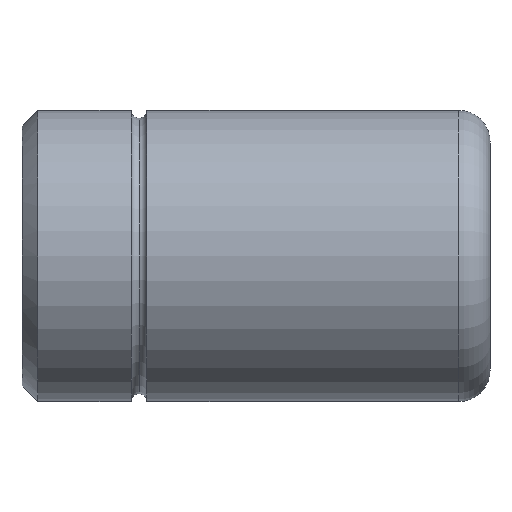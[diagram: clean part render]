
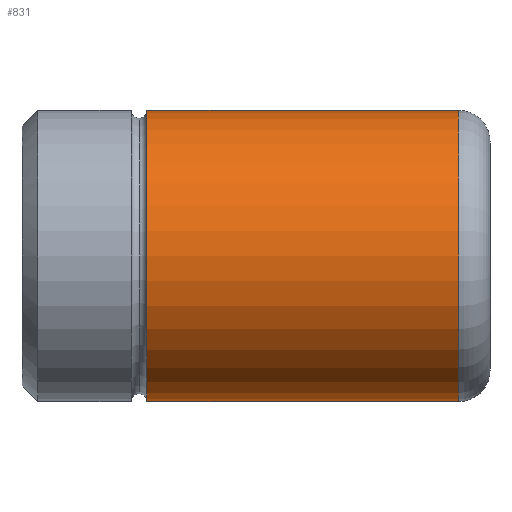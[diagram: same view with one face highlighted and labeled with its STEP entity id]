
A CAD part, front view. The second image highlights one B-rep face of the part: STEP entity #831.
In plain terms, the highlighted cylindrical face has radius 14 mm (diameter 28 mm), a partial arc.
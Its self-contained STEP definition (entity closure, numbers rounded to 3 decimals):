
#647=CARTESIAN_POINT('Vertex',(12.,0.,14.)) ;
#654=CARTESIAN_POINT('Vertex',(12.,0.,-14.)) ;
#680=CARTESIAN_POINT('Axis2P3D Location',(12.,0.,0.)) ;
#684=CARTESIAN_POINT('Vertex',(12.,-14.,0.)) ;
#687=CARTESIAN_POINT('Axis2P3D Location',(12.,0.,0.)) ;
#771=CARTESIAN_POINT('Line Origine',(45.,0.,14.)) ;
#775=CARTESIAN_POINT('Vertex',(42.,0.,14.)) ;
#789=CARTESIAN_POINT('Vertex',(42.,0.,-14.)) ;
#792=CARTESIAN_POINT('Line Origine',(45.,0.,-14.)) ;
#806=CARTESIAN_POINT('Axis2P3D Location',(45.,0.,0.)) ;
#811=CARTESIAN_POINT('Axis2P3D Location',(42.,0.,0.)) ;
#815=CARTESIAN_POINT('Vertex',(42.,-14.,0.)) ;
#818=CARTESIAN_POINT('Axis2P3D Location',(42.,0.,0.)) ;
#681=DIRECTION('Axis2P3D Direction',(1.,0.,-0.)) ;
#688=DIRECTION('Axis2P3D Direction',(1.,0.,-0.)) ;
#772=DIRECTION('Vector Direction',(-1.,0.,0.)) ;
#793=DIRECTION('Vector Direction',(-1.,0.,0.)) ;
#807=DIRECTION('Axis2P3D Direction',(-1.,-0.,-0.)) ;
#808=DIRECTION('Axis2P3D XDirection',(0.,0.,-1.)) ;
#812=DIRECTION('Axis2P3D Direction',(-1.,-0.,-0.)) ;
#819=DIRECTION('Axis2P3D Direction',(-1.,-0.,-0.)) ;
#682=AXIS2_PLACEMENT_3D('Circle Axis2P3D',#680,#681,$) ;
#689=AXIS2_PLACEMENT_3D('Circle Axis2P3D',#687,#688,$) ;
#809=AXIS2_PLACEMENT_3D('Cylinder Axis2P3D',#806,#807,#808) ;
#813=AXIS2_PLACEMENT_3D('Circle Axis2P3D',#811,#812,$) ;
#820=AXIS2_PLACEMENT_3D('Circle Axis2P3D',#818,#819,$) ;
#824=ORIENTED_EDGE('',*,*,#796,.T.) ;
#825=ORIENTED_EDGE('',*,*,#817,.F.) ;
#826=ORIENTED_EDGE('',*,*,#822,.F.) ;
#827=ORIENTED_EDGE('',*,*,#777,.T.) ;
#828=ORIENTED_EDGE('',*,*,#691,.T.) ;
#829=ORIENTED_EDGE('',*,*,#686,.T.) ;
#773=VECTOR('Line Direction',#772,1.) ;
#794=VECTOR('Line Direction',#793,1.) ;
#831=ADVANCED_FACE('347-18 x 45',(#830),#810,.T.) ;
#683=CIRCLE('generated circle',#682,14.) ;
#690=CIRCLE('generated circle',#689,14.) ;
#814=CIRCLE('generated circle',#813,14.) ;
#821=CIRCLE('generated circle',#820,14.) ;
#810=CYLINDRICAL_SURFACE('generated cylinder',#809,14.) ;
#686=EDGE_CURVE('',#685,#655,#683,.T.) ;
#691=EDGE_CURVE('',#648,#685,#690,.T.) ;
#777=EDGE_CURVE('',#776,#648,#774,.T.) ;
#796=EDGE_CURVE('',#655,#790,#795,.F.) ;
#817=EDGE_CURVE('',#816,#790,#814,.F.) ;
#822=EDGE_CURVE('',#776,#816,#821,.F.) ;
#823=EDGE_LOOP('',(#824,#825,#826,#827,#828,#829)) ;
#830=FACE_OUTER_BOUND('',#823,.T.) ;
#774=LINE('Line',#771,#773) ;
#795=LINE('Line',#792,#794) ;
#648=VERTEX_POINT('',#647) ;
#655=VERTEX_POINT('',#654) ;
#685=VERTEX_POINT('',#684) ;
#776=VERTEX_POINT('',#775) ;
#790=VERTEX_POINT('',#789) ;
#816=VERTEX_POINT('',#815) ;
